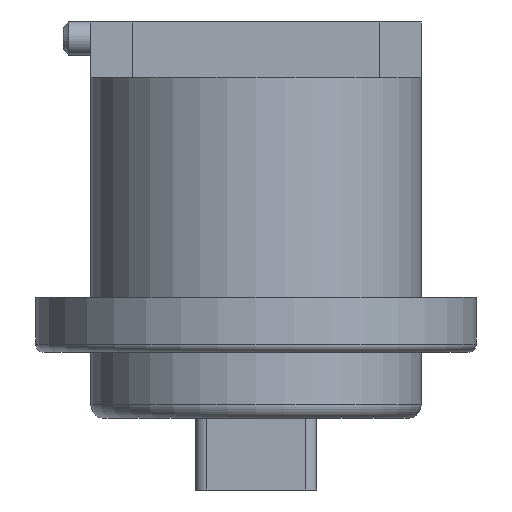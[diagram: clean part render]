
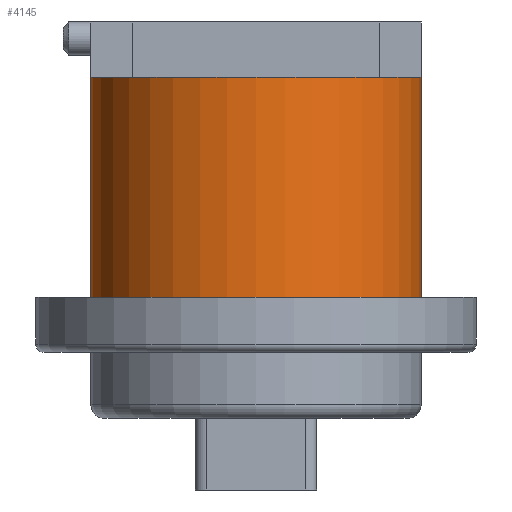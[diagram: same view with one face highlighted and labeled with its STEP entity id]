
A CAD part, front view. The second image highlights one B-rep face of the part: STEP entity #4145.
In plain terms, the highlighted cylindrical face has radius 3 mm (diameter 6 mm), a partial arc.
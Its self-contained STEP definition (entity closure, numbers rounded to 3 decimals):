
#163=CARTESIAN_POINT('',(48.708,-31.289,-0.2));
#164=DIRECTION('',(0.,0.,-1.));
#165=DIRECTION('',(1.,0.,0.));
#166=AXIS2_PLACEMENT_3D('',#163,#164,#165);
#521=DIRECTION('',(0.,0.,1.));
#522=VECTOR('',#521,4.5);
#523=CARTESIAN_POINT('',(51.708,-31.289,-0.2));
#524=LINE('',#523,#522);
#595=CARTESIAN_POINT('',(48.708,-31.289,4.3));
#596=DIRECTION('',(0.,0.,1.));
#597=DIRECTION('',(-1.,0.,0.));
#598=AXIS2_PLACEMENT_3D('',#595,#596,#597);
#1027=DIRECTION('',(0.,0.,1.));
#1028=VECTOR('',#1027,4.5);
#1029=CARTESIAN_POINT('',(45.708,-31.289,-0.2));
#1030=LINE('',#1029,#1028);
#2158=CARTESIAN_POINT('',(51.708,-31.289,-0.2));
#2159=CARTESIAN_POINT('',(45.708,-31.289,-0.2));
#2160=VERTEX_POINT('',#2158);
#2161=VERTEX_POINT('',#2159);
#2266=CARTESIAN_POINT('',(45.708,-31.289,4.3));
#2267=CARTESIAN_POINT('',(51.708,-31.289,4.3));
#2268=VERTEX_POINT('',#2266);
#2269=VERTEX_POINT('',#2267);
#4134=CARTESIAN_POINT('',(48.708,-31.289,2.9));
#4135=DIRECTION('',(0.,0.,-1.));
#4136=DIRECTION('',(-1.,0.,0.));
#4137=AXIS2_PLACEMENT_3D('',#4134,#4135,#4136);
#4138=CYLINDRICAL_SURFACE('',#4137,3.);
#4139=ORIENTED_EDGE('',*,*,#3048,.T.);
#4140=ORIENTED_EDGE('',*,*,#3508,.T.);
#4141=ORIENTED_EDGE('',*,*,#3434,.F.);
#4142=ORIENTED_EDGE('',*,*,#2950,.T.);
#4143=EDGE_LOOP('',(#4139,#4140,#4141,#4142));
#4144=FACE_OUTER_BOUND('',#4143,.F.);
#167=CIRCLE('',#166,3.);
#599=CIRCLE('',#598,3.);
#2950=EDGE_CURVE('',#2160,#2161,#167,.T.);
#3048=EDGE_CURVE('',#2161,#2268,#1030,.T.);
#3434=EDGE_CURVE('',#2160,#2269,#524,.T.);
#3508=EDGE_CURVE('',#2268,#2269,#599,.T.);
#4145=ADVANCED_FACE('',(#4144),#4138,.T.);
